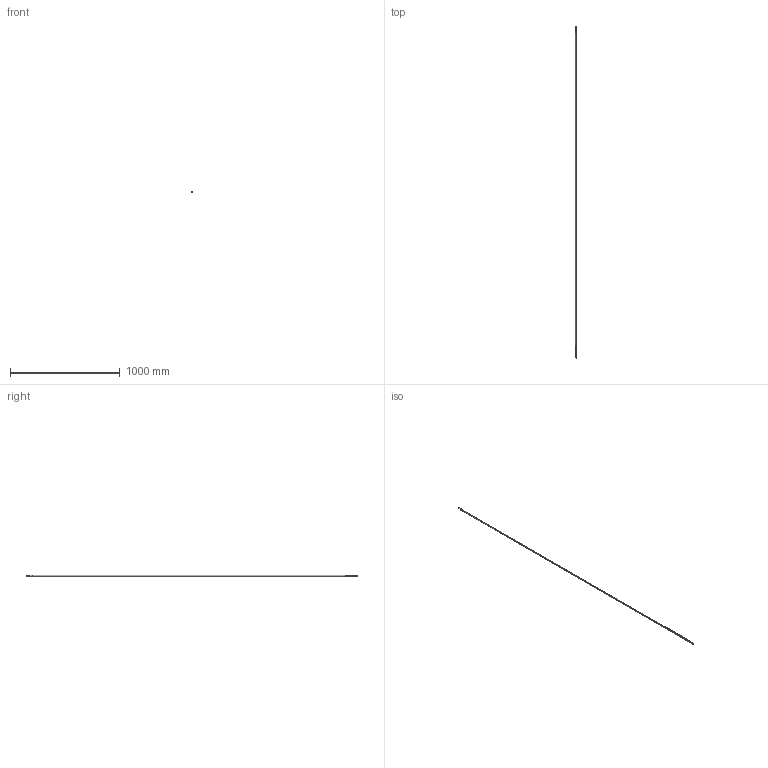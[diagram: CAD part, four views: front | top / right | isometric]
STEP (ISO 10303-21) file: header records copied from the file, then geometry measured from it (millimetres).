
FILE_DESCRIPTION (( 'STEP AP214' ), '1' );
FILE_NAME ('TPL-H-015.STEP', '2024-07-11T04:25:24', ( '' ), ( '' ), 'SwSTEP 2.0', 'SolidWorks 2023', '' );
FILE_SCHEMA (( 'AUTOMOTIVE_DESIGN' ));
Length unit declared in the file: millimetre
Products named in the file (5): Copy of LKC-576 Bolt adaptor - simplified^Hollow rod with bolt and adaptor; TPL-H-015; Copy of LKC-575 Bolt 8mm square suit hollow system - simplified^Hollow rod with bolt and adaptor; Copy of LKC-540 Transmission rod aluminium system TPLGen2^Hollow rod with bolt and adaptor_2885mm; Copy of LKC-532 Rod connector - simplified^Hollow rod with bolt and adaptor
Assembly tree (4 placements, depth 2):
  TPL-H-015
    Copy of LKC-532 Rod connector - simplified^Hollow rod with bolt and adaptor
    Copy of LKC-540 Transmission rod aluminium system TPLGen2^Hollow rod with bolt and adaptor_2885mm
    Copy of LKC-576 Bolt adaptor - simplified^Hollow rod with bolt and adaptor
    Copy of LKC-575 Bolt 8mm square suit hollow system - simplified^Hollow rod with bolt and adaptor
Bounding box: 11.75 x 3021 x 12 mm (x, y, z)
Volume: 150737.1 mm3; surface area: 193302.7 mm2
Topology: 4 solids, 4 shells, 104 faces, 250 edges, 150 vertices
Faces by surface type: cylinder 38, cone 34, plane 28, torus 2, sphere 2
Entity records: 3388 total; most frequent: CARTESIAN_POINT 847, DIRECTION 536, ORIENTED_EDGE 472, EDGE_CURVE 236, AXIS2_PLACEMENT_3D 211, VERTEX_POINT 150, EDGE_LOOP 116, LINE 114
